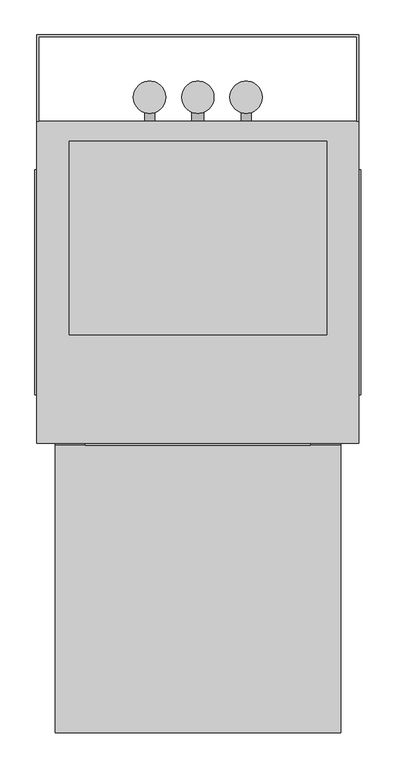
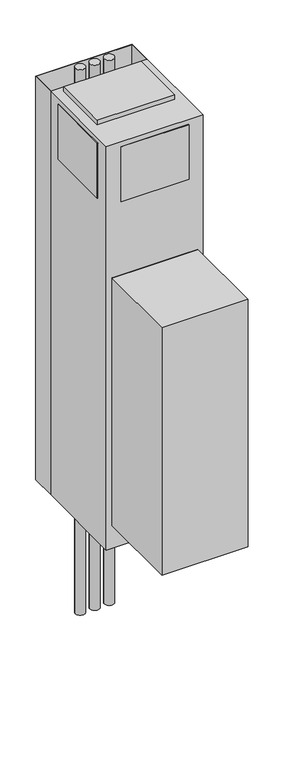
"""IFC4 building model written with IfcOpenShell, lengths in millimetres: proxy geometry, Exposed_Modular_Fan_Coil_Unit_-_42SHA_-_CARRIER_-_2-Pipe_Cool-EHeat_-_WithRisers_2022 : Size 06 - 277v/60Hz/1Ph - 4 Row 6.0kW."""

from ifc_helpers import new_model, si_unit, point, frame, frame_2d, origin, origin_with_axes, place, context, project, spatial, polyline, circle_curve, trimmed, segment, composite_curve, outline, extrude, source, transform, mapped, element, save


def mechanical_equipment_3314fadd(model_context):
    return source(origin(), model_context, "Body", "SweptSolid", [
        extrude(outline(composite_curve([segment(trimmed(circle_curve(frame_2d((330.2, 282.575)), 25.4), [point((355.6, 282.575))], [point((304.8, 282.575))], False, "CARTESIAN"), True, "CONTINUOUS"), segment(trimmed(circle_curve(frame_2d((330.2, 282.575)), 25.4), [point((304.8, 282.575))], [point((355.6, 282.575))], False, "CARTESIAN"), True, "CONTINUOUS")], self_intersect=False)), frame((0.0, 0.0, -736.6), z_axis=(0.0, 0.0, 1.0), x_axis=(1.0, 0.0, 0.0)), (0.0, 0.0, 1.0), 3022.6),
        extrude(outline(composite_curve([segment(trimmed(circle_curve(frame_2d((406.4, 282.575)), 25.4), [point((431.8, 282.575))], [point((381.0, 282.575))], False, "CARTESIAN"), True, "CONTINUOUS"), segment(trimmed(circle_curve(frame_2d((406.4, 282.575)), 25.4), [point((381.0, 282.575))], [point((431.8, 282.575))], False, "CARTESIAN"), True, "CONTINUOUS")], self_intersect=False)), frame((0.0, 0.0, -736.6), z_axis=(0.0, 0.0, 1.0), x_axis=(1.0, 0.0, 0.0)), (0.0, 0.0, 1.0), 3022.6),
        extrude(outline(composite_curve([segment(trimmed(circle_curve(frame_2d((482.6, 282.575)), 25.4), [point((508.0, 282.575))], [point((457.2, 282.575))], False, "CARTESIAN"), True, "CONTINUOUS"), segment(trimmed(circle_curve(frame_2d((482.6, 282.575)), 25.4), [point((457.2, 282.575))], [point((508.0, 282.575))], False, "CARTESIAN"), True, "CONTINUOUS")], self_intersect=False)), frame((0.0, 0.0, -736.6), z_axis=(0.0, 0.0, 1.0), x_axis=(1.0, 0.0, 0.0)), (0.0, 0.0, 1.0), 3022.6),
        extrude(outline(polyline([(631.825, -266.7), (631.825, -720.725), (180.975, -720.725), (180.975, -266.7), (631.825, -266.7)])), frame((0.0, 0.0, 127.0), z_axis=(0.0, 0.0, 1.0), x_axis=(1.0, 0.0, 0.0)), (0.0, 0.0, 1.0), 1371.6),
        extrude(outline(polyline([(152.4, 381.0), (660.4, 381.0), (660.4, 244.475), (657.225, 244.475), (657.225, 377.825), (155.575, 377.825), (155.575, 244.475), (152.4, 244.475), (152.4, 381.0)])), origin_with_axes(), (0.0, 0.0, 1.0), 2235.2),
        extrude(outline(composite_curve([segment(trimmed(circle_curve(frame_2d((990.6, 482.6)), 7.9375), [point((990.6, 490.5375))], [point((990.6, 474.6625))], False, "CARTESIAN"), True, "CONTINUOUS"), segment(trimmed(circle_curve(frame_2d((990.6, 482.6)), 7.9375), [point((990.6, 474.6625))], [point((990.6, 490.5375))], False, "CARTESIAN"), True, "CONTINUOUS")], self_intersect=False)), frame((0.0, 244.475, 0.0), z_axis=(0.0, 1.0, 0.0), x_axis=(0.0, 0.0, 1.0)), (0.0, 0.0, 1.0), 25.4),
        extrude(outline(composite_curve([segment(trimmed(circle_curve(frame_2d((990.6, 330.2)), 7.9375), [point((990.6, 338.1375))], [point((990.6, 322.2625))], False, "CARTESIAN"), True, "CONTINUOUS"), segment(trimmed(circle_curve(frame_2d((990.6, 330.2)), 7.9375), [point((990.6, 322.2625))], [point((990.6, 338.1375))], False, "CARTESIAN"), True, "CONTINUOUS")], self_intersect=False)), frame((0.0, 244.475, 0.0), z_axis=(0.0, 1.0, 0.0), x_axis=(0.0, 0.0, 1.0)), (0.0, 0.0, 1.0), 25.4),
        extrude(outline(composite_curve([segment(trimmed(circle_curve(frame_2d((127.0, 406.4)), 9.525), [point((127.0, 415.925))], [point((127.0, 396.875))], False, "CARTESIAN"), True, "CONTINUOUS"), segment(trimmed(circle_curve(frame_2d((127.0, 406.4)), 9.525), [point((127.0, 396.875))], [point((127.0, 415.925))], False, "CARTESIAN"), True, "CONTINUOUS")], self_intersect=False)), frame((0.0, 244.475, 0.0), z_axis=(0.0, 1.0, 0.0), x_axis=(0.0, 0.0, 1.0)), (0.0, 0.0, 1.0), 25.4),
        extrude(outline(polyline([(631.825, -266.7), (180.975, -266.7), (180.975, -263.525), (631.825, -263.525), (631.825, -266.7)])), frame((0.0, 0.0, 127.0), z_axis=(0.0, 0.0, 1.0), x_axis=(1.0, 0.0, 0.0)), (0.0, 0.0, 1.0), 1371.6),
        extrude(outline(polyline([(663.575, 168.275), (663.575, -187.325), (660.4, -187.325), (660.4, 168.275), (663.575, 168.275)])), frame((0.0, 0.0, 1905.0), z_axis=(0.0, 0.0, 1.0), x_axis=(1.0, 0.0, 0.0)), (0.0, 0.0, 1.0), 304.8),
        extrude(outline(polyline([(149.225, -187.325), (149.225, 168.275), (152.4, 168.275), (152.4, -187.325), (149.225, -187.325)])), frame((0.0, 0.0, 1905.0), z_axis=(0.0, 0.0, 1.0), x_axis=(1.0, 0.0, 0.0)), (0.0, 0.0, 1.0), 304.8),
        extrude(outline(polyline([(584.2, -266.7), (228.6, -266.7), (228.6, -263.525), (584.2, -263.525), (584.2, -266.7)])), frame((0.0, 0.0, 1905.0), z_axis=(0.0, 0.0, 1.0), x_axis=(1.0, 0.0, 0.0)), (0.0, 0.0, 1.0), 304.8),
        extrude(outline(polyline([(609.6, 212.725), (609.6, -92.075), (203.2, -92.075), (203.2, 212.725), (609.6, 212.725)])), frame((0.0, 0.0, 2235.2), z_axis=(0.0, 0.0, 1.0), x_axis=(1.0, 0.0, 0.0)), (0.0, 0.0, 1.0), 25.4),
        extrude(outline(polyline([(660.4, 244.475), (660.4, -263.525), (152.4, -263.525), (152.4, 244.475), (660.4, 244.475)])), origin_with_axes(), (0.0, 0.0, 1.0), 2235.2),
    ])


if __name__ == "__main__":
    model = new_model("IFC4")
    model_context = context("Model", 3, world=origin())
    ifc_project = project(units=[si_unit("LENGTHUNIT", "METRE", prefix="MILLI")], contexts=[model_context])
    site = spatial("IfcSite", under=ifc_project)
    building = spatial("IfcBuilding", under=site)
    placement = place(None, origin())
    mechanical_equipment_shape = mechanical_equipment_3314fadd(model_context)
    element("IfcBuildingElementProxy", 1, Name="Exposed_Modular_Fan_Coil_Unit_-_42SHA_-_CARRIER_-_2-Pipe_Cool-EHeat_-_WithRisers_2022 : Size 06 - 277v/60Hz/1Ph - 4 Row 6.0kW", ObjectType="Exposed_Modular_Fan_Coil_Unit_-_42SHA_-_CARRIER_-_2-Pipe_Cool-EHeat_-_WithRisers_2022 : Size 06 - 277v/60Hz/1Ph - 4 Row 6.0kW", at=placement, inside=building, context=model_context, shape_type="MappedRepresentation", body=[
        mapped(mechanical_equipment_shape, transform((0.0, 0.0, 0.0), x_axis=(1.0, 0.0, 0.0), y_axis=(0.0, 1.0, 0.0), z_axis=(0.0, 0.0, 1.0))),
    ])
    save(model, "model.ifc")
